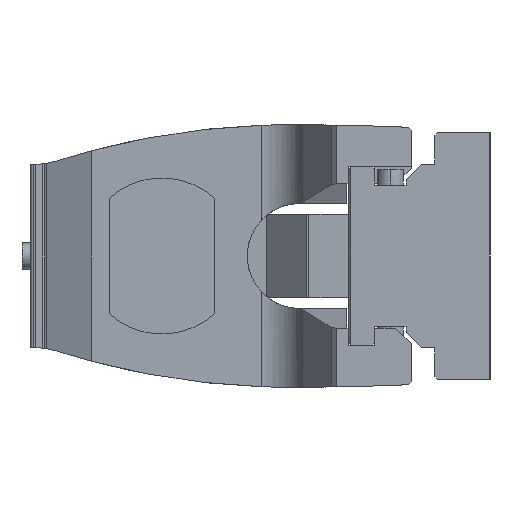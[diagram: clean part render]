
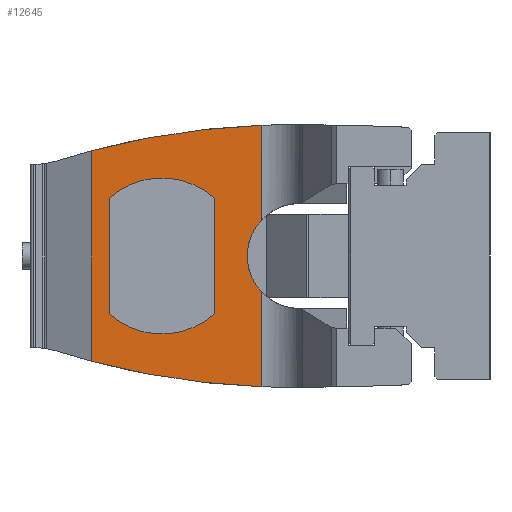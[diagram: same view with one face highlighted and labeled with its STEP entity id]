
A CAD part, left-side view. The second image highlights one B-rep face of the part: STEP entity #12645.
In plain terms, the highlighted planar face has unit normal (-1, 0, 0) as drawn and (1, 0, 0) by its records, which use the part's own axes.
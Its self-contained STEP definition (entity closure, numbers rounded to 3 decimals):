
#91 = LINE ( 'NONE', #25220, #33430 ) ;
#149 = ORIENTED_EDGE ( 'NONE', *, *, #2410, .T. ) ;
#779 = VERTEX_POINT ( 'NONE', #19250 ) ;
#2117 = EDGE_CURVE ( 'NONE', #38701, #19161, #2246, .T. ) ;
#2246 = CIRCLE ( 'NONE', #13506, 20. ) ;
#2400 = DIRECTION ( 'NONE',  ( 0., -1., 0. ) ) ;
#2410 = EDGE_CURVE ( 'NONE', #19161, #33266, #13913, .T. ) ;
#2591 = PLANE ( 'NONE',  #14647 ) ;
#3785 = DIRECTION ( 'NONE',  ( -1., 0., 0. ) ) ;
#3858 = CARTESIAN_POINT ( 'NONE',  ( 25.5, 117.9, 40.097 ) ) ;
#4063 = DIRECTION ( 'NONE',  ( 0., 0., 1. ) ) ;
#4078 = LINE ( 'NONE', #28097, #23356 ) ;
#4690 = CARTESIAN_POINT ( 'NONE',  ( 25.5, 52.88, 13.9 ) ) ;
#4829 = ORIENTED_EDGE ( 'NONE', *, *, #32325, .F. ) ;
#7552 = AXIS2_PLACEMENT_3D ( 'NONE', #33332, #7603, #30280 ) ;
#7580 = DIRECTION ( 'NONE',  ( 0., 1., 0. ) ) ;
#7603 = DIRECTION ( 'NONE',  ( 1., 0., 0. ) ) ;
#8292 = EDGE_CURVE ( 'NONE', #30821, #779, #11783, .T. ) ;
#8589 = DIRECTION ( 'NONE',  ( 0., 0., -1. ) ) ;
#9037 = VECTOR ( 'NONE', #17832, 1000. ) ;
#11783 = LINE ( 'NONE', #36224, #17917 ) ;
#12621 = EDGE_CURVE ( 'NONE', #19217, #35252, #4078, .T. ) ;
#12645 = ADVANCED_FACE ( 'NONE', ( #32897, #21297 ), #2591, .F. ) ;
#13185 = DIRECTION ( 'NONE',  ( 0., -1., 0. ) ) ;
#13396 = CARTESIAN_POINT ( 'NONE',  ( 25.5, 38.5, 0. ) ) ;
#13506 = AXIS2_PLACEMENT_3D ( 'NONE', #13396, #3785, #35945 ) ;
#13913 = LINE ( 'NONE', #18818, #36556 ) ;
#14532 = EDGE_CURVE ( 'NONE', #37143, #779, #18936, .T. ) ;
#14551 = AXIS2_PLACEMENT_3D ( 'NONE', #30387, #30251, #7580 ) ;
#14647 = AXIS2_PLACEMENT_3D ( 'NONE', #25140, #22848, #13185 ) ;
#14908 = ORIENTED_EDGE ( 'NONE', *, *, #8292, .T. ) ;
#15407 = DIRECTION ( 'NONE',  ( 0., 0., -1. ) ) ;
#15636 = LINE ( 'NONE', #37096, #9037 ) ;
#17228 = ORIENTED_EDGE ( 'NONE', *, *, #29955, .T. ) ;
#17696 = DIRECTION ( 'NONE',  ( 0., -1., 0. ) ) ;
#17832 = DIRECTION ( 'NONE',  ( 0., 0., -1. ) ) ;
#17917 = VECTOR ( 'NONE', #4063, 1000. ) ;
#18818 = CARTESIAN_POINT ( 'NONE',  ( 25.5, 52.88, -49.999 ) ) ;
#18936 = CIRCLE ( 'NONE', #7552, 29.75 ) ;
#19161 = VERTEX_POINT ( 'NONE', #35800 ) ;
#19217 = VERTEX_POINT ( 'NONE', #20471 ) ;
#19250 = CARTESIAN_POINT ( 'NONE',  ( 25.5, 71., 22.024 ) ) ;
#20471 = CARTESIAN_POINT ( 'NONE',  ( 25.5, 117.9, -40.097 ) ) ;
#20515 = EDGE_LOOP ( 'NONE', ( #14908, #21195, #29023, #30348 ) ) ;
#21150 = EDGE_CURVE ( 'NONE', #24551, #35252, #25417, .T. ) ;
#21195 = ORIENTED_EDGE ( 'NONE', *, *, #14532, .F. ) ;
#21297 = FACE_OUTER_BOUND ( 'NONE', #30744, .T. ) ;
#21806 = CARTESIAN_POINT ( 'NONE',  ( 25.5, 42., 245.8 ) ) ;
#22582 = ORIENTED_EDGE ( 'NONE', *, *, #12621, .T. ) ;
#22848 = DIRECTION ( 'NONE',  ( -1., 0., 0. ) ) ;
#23356 = VECTOR ( 'NONE', #28242, 1000. ) ;
#23433 = ORIENTED_EDGE ( 'NONE', *, *, #21150, .F. ) ;
#24551 = VERTEX_POINT ( 'NONE', #29950 ) ;
#24557 = AXIS2_PLACEMENT_3D ( 'NONE', #34017, #36960, #17696 ) ;
#25140 = CARTESIAN_POINT ( 'NONE',  ( 25.5, 150., -50. ) ) ;
#25220 = CARTESIAN_POINT ( 'NONE',  ( 25.5, 111., -50. ) ) ;
#25417 = CIRCLE ( 'NONE', #24557, 295.8 ) ;
#27799 = EDGE_CURVE ( 'NONE', #37143, #28960, #91, .T. ) ;
#28097 = CARTESIAN_POINT ( 'NONE',  ( 25.5, 117.9, -50. ) ) ;
#28242 = DIRECTION ( 'NONE',  ( 0., 0., 1. ) ) ;
#28960 = VERTEX_POINT ( 'NONE', #33700 ) ;
#29023 = ORIENTED_EDGE ( 'NONE', *, *, #27799, .T. ) ;
#29950 = CARTESIAN_POINT ( 'NONE',  ( 25.5, 52.88, 49.8 ) ) ;
#29955 = EDGE_CURVE ( 'NONE', #24551, #38701, #15636, .T. ) ;
#30251 = DIRECTION ( 'NONE',  ( 1., 0., 0. ) ) ;
#30280 = DIRECTION ( 'NONE',  ( 0., 1., 0. ) ) ;
#30348 = ORIENTED_EDGE ( 'NONE', *, *, #32641, .F. ) ;
#30387 = CARTESIAN_POINT ( 'NONE',  ( 25.5, 91., 0. ) ) ;
#30744 = EDGE_LOOP ( 'NONE', ( #22582, #23433, #17228, #33125, #149, #4829 ) ) ;
#30821 = VERTEX_POINT ( 'NONE', #37858 ) ;
#31328 = AXIS2_PLACEMENT_3D ( 'NONE', #21806, #34615, #2400 ) ;
#32325 = EDGE_CURVE ( 'NONE', #19217, #33266, #35255, .T. ) ;
#32641 = EDGE_CURVE ( 'NONE', #30821, #28960, #35214, .T. ) ;
#32897 = FACE_BOUND ( 'NONE', #20515, .T. ) ;
#33125 = ORIENTED_EDGE ( 'NONE', *, *, #2117, .T. ) ;
#33266 = VERTEX_POINT ( 'NONE', #34339 ) ;
#33332 = CARTESIAN_POINT ( 'NONE',  ( 25.5, 91., 0. ) ) ;
#33430 = VECTOR ( 'NONE', #8589, 1000. ) ;
#33700 = CARTESIAN_POINT ( 'NONE',  ( 25.5, 111., -22.024 ) ) ;
#34017 = CARTESIAN_POINT ( 'NONE',  ( 25.5, 42., -245.8 ) ) ;
#34339 = CARTESIAN_POINT ( 'NONE',  ( 25.5, 52.88, -49.8 ) ) ;
#34615 = DIRECTION ( 'NONE',  ( -1., 0., 0. ) ) ;
#35214 = CIRCLE ( 'NONE', #14551, 29.75 ) ;
#35252 = VERTEX_POINT ( 'NONE', #3858 ) ;
#35255 = CIRCLE ( 'NONE', #31328, 295.8 ) ;
#35800 = CARTESIAN_POINT ( 'NONE',  ( 25.5, 52.88, -13.9 ) ) ;
#35945 = DIRECTION ( 'NONE',  ( 0., -1., 0. ) ) ;
#36224 = CARTESIAN_POINT ( 'NONE',  ( 25.5, 71., -50. ) ) ;
#36385 = CARTESIAN_POINT ( 'NONE',  ( 25.5, 111., 22.024 ) ) ;
#36556 = VECTOR ( 'NONE', #15407, 1000. ) ;
#36960 = DIRECTION ( 'NONE',  ( -1., 0., 0. ) ) ;
#37096 = CARTESIAN_POINT ( 'NONE',  ( 25.5, 52.88, -49.999 ) ) ;
#37143 = VERTEX_POINT ( 'NONE', #36385 ) ;
#37858 = CARTESIAN_POINT ( 'NONE',  ( 25.5, 71., -22.024 ) ) ;
#38701 = VERTEX_POINT ( 'NONE', #4690 ) ;
